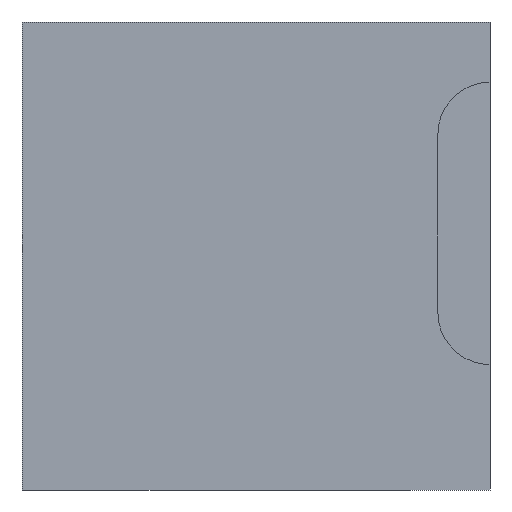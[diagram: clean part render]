
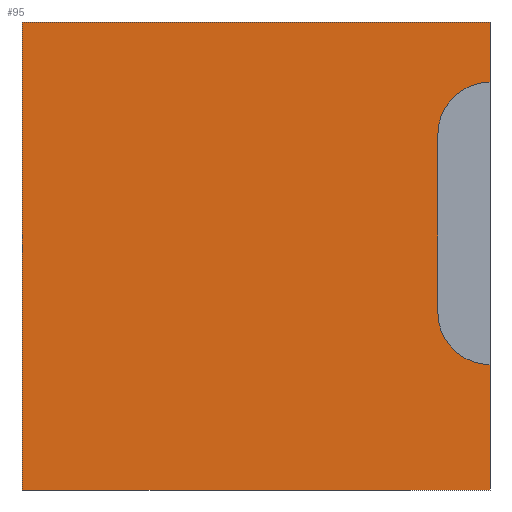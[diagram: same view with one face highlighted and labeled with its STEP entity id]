
A CAD part, left-side view. The second image highlights one B-rep face of the part: STEP entity #95.
In plain terms, the highlighted planar face has unit normal (-1, 0, 0).
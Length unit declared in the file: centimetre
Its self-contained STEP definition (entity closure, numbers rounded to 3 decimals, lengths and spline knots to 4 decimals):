
#4 = DIRECTION ( 'NONE',  ( 0., 0., -1. ) ) ;
#34 = VERTEX_POINT ( 'NONE', #539 ) ;
#36 = CARTESIAN_POINT ( 'NONE',  ( 0., 111.4323, 759.7333 ) ) ;
#46 = DIRECTION ( 'NONE',  ( 0., -1., 0. ) ) ;
#52 = EDGE_CURVE ( 'NONE', #422, #420, #172, .T. ) ;
#54 = ORIENTED_EDGE ( 'NONE', *, *, #52, .T. ) ;
#64 = CARTESIAN_POINT ( 'NONE',  ( 0., 1000., 1000. ) ) ;
#83 = EDGE_CURVE ( 'NONE', #268, #638, #610, .T. ) ;
#85 = DIRECTION ( 'NONE',  ( 0., 0., 1. ) ) ;
#87 = CARTESIAN_POINT ( 'NONE',  ( 0., 0., 0. ) ) ;
#95 = ADVANCED_FACE ( 'NONE', ( #98 ), #247, .F. ) ;
#98 = FACE_OUTER_BOUND ( 'NONE', #615, .T. ) ;
#125 = DIRECTION ( 'NONE',  ( 0., -1., 0. ) ) ;
#132 = VECTOR ( 'NONE', #544, 100. ) ;
#138 = CARTESIAN_POINT ( 'NONE',  ( 0., 0., 379.4373 ) ) ;
#156 = DIRECTION ( 'NONE',  ( 0., 0., 1. ) ) ;
#157 = ORIENTED_EDGE ( 'NONE', *, *, #302, .F. ) ;
#164 = VERTEX_POINT ( 'NONE', #506 ) ;
#171 = LINE ( 'NONE', #601, #132 ) ;
#172 = LINE ( 'NONE', #440, #564 ) ;
#182 = DIRECTION ( 'NONE',  ( 0., 0., -1. ) ) ;
#185 = AXIS2_PLACEMENT_3D ( 'NONE', #138, #343, #85 ) ;
#201 = EDGE_CURVE ( 'NONE', #164, #420, #228, .T. ) ;
#219 = CARTESIAN_POINT ( 'NONE',  ( 0., 0., 759.7333 ) ) ;
#220 = VECTOR ( 'NONE', #182, 100. ) ;
#224 = VERTEX_POINT ( 'NONE', #454 ) ;
#228 = LINE ( 'NONE', #445, #495 ) ;
#237 = CARTESIAN_POINT ( 'NONE',  ( 0., 1000., 0. ) ) ;
#247 = PLANE ( 'NONE',  #416 ) ;
#267 = ORIENTED_EDGE ( 'NONE', *, *, #661, .F. ) ;
#268 = VERTEX_POINT ( 'NONE', #64 ) ;
#291 = DIRECTION ( 'NONE',  ( 0., 0., -1. ) ) ;
#300 = CARTESIAN_POINT ( 'NONE',  ( 0., 1000., 1000. ) ) ;
#302 = EDGE_CURVE ( 'NONE', #638, #376, #369, .T. ) ;
#311 = VECTOR ( 'NONE', #46, 100. ) ;
#317 = EDGE_CURVE ( 'NONE', #376, #34, #662, .T. ) ;
#343 = DIRECTION ( 'NONE',  ( -1., 0., 0. ) ) ;
#369 = LINE ( 'NONE', #429, #491 ) ;
#376 = VERTEX_POINT ( 'NONE', #668 ) ;
#416 = AXIS2_PLACEMENT_3D ( 'NONE', #458, #665, #519 ) ;
#420 = VERTEX_POINT ( 'NONE', #87 ) ;
#422 = VERTEX_POINT ( 'NONE', #237 ) ;
#429 = CARTESIAN_POINT ( 'NONE',  ( 0., 0., 1000. ) ) ;
#440 = CARTESIAN_POINT ( 'NONE',  ( 0., 1000., 0. ) ) ;
#445 = CARTESIAN_POINT ( 'NONE',  ( 0., 0., 1000. ) ) ;
#447 = CARTESIAN_POINT ( 'NONE',  ( 0., 0., 1000. ) ) ;
#454 = CARTESIAN_POINT ( 'NONE',  ( 0., 111.4323, 379.4373 ) ) ;
#458 = CARTESIAN_POINT ( 'NONE',  ( 0., 1000., 1000. ) ) ;
#459 = AXIS2_PLACEMENT_3D ( 'NONE', #219, #577, #156 ) ;
#482 = ORIENTED_EDGE ( 'NONE', *, *, #317, .F. ) ;
#486 = ORIENTED_EDGE ( 'NONE', *, *, #522, .T. ) ;
#491 = VECTOR ( 'NONE', #4, 100. ) ;
#495 = VECTOR ( 'NONE', #291, 100. ) ;
#506 = CARTESIAN_POINT ( 'NONE',  ( 0., 0., 268.005 ) ) ;
#517 = CIRCLE ( 'NONE', #185, 111.4323 ) ;
#519 = DIRECTION ( 'NONE',  ( 0., 0., -1. ) ) ;
#522 = EDGE_CURVE ( 'NONE', #268, #422, #171, .T. ) ;
#539 = CARTESIAN_POINT ( 'NONE',  ( 0., 111.4323, 759.7333 ) ) ;
#544 = DIRECTION ( 'NONE',  ( 0., 0., -1. ) ) ;
#549 = ORIENTED_EDGE ( 'NONE', *, *, #201, .F. ) ;
#564 = VECTOR ( 'NONE', #125, 100. ) ;
#569 = ORIENTED_EDGE ( 'NONE', *, *, #633, .F. ) ;
#577 = DIRECTION ( 'NONE',  ( -1., 0., 0. ) ) ;
#601 = CARTESIAN_POINT ( 'NONE',  ( 0., 1000., 1000. ) ) ;
#610 = LINE ( 'NONE', #300, #311 ) ;
#615 = EDGE_LOOP ( 'NONE', ( #549, #267, #569, #482, #157, #642, #486, #54 ) ) ;
#633 = EDGE_CURVE ( 'NONE', #34, #224, #644, .T. ) ;
#638 = VERTEX_POINT ( 'NONE', #447 ) ;
#642 = ORIENTED_EDGE ( 'NONE', *, *, #83, .F. ) ;
#644 = LINE ( 'NONE', #36, #220 ) ;
#661 = EDGE_CURVE ( 'NONE', #224, #164, #517, .T. ) ;
#662 = CIRCLE ( 'NONE', #459, 111.4323 ) ;
#665 = DIRECTION ( 'NONE',  ( 1., 0., 0. ) ) ;
#668 = CARTESIAN_POINT ( 'NONE',  ( 0., 0., 871.1656 ) ) ;
